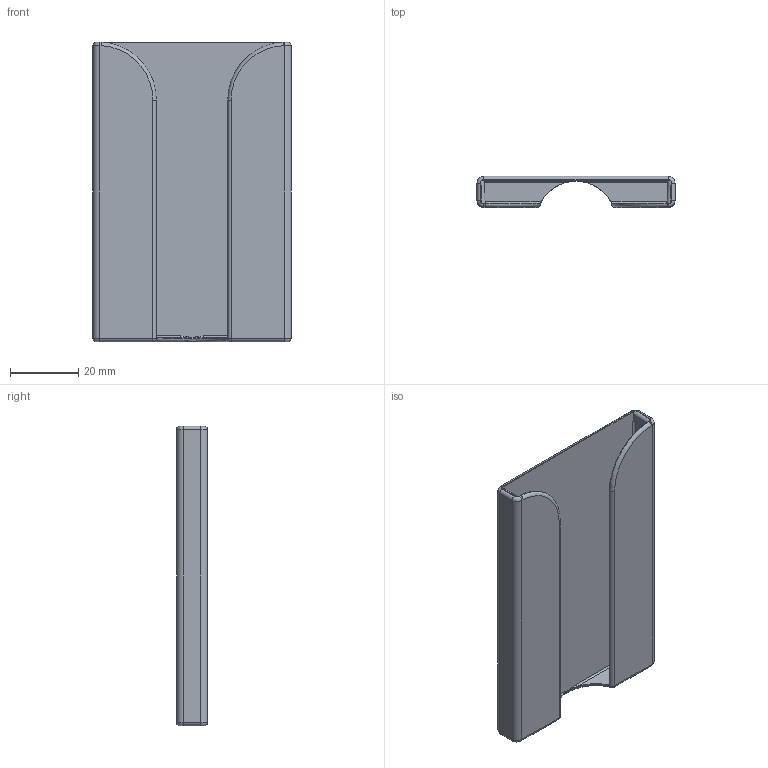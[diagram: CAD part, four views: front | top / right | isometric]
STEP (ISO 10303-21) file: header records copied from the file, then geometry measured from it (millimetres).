
FILE_DESCRIPTION(/* description */ ('','CAx-IF Rec.Pracs.---Representation and Presentation of Product Manufacturing Information (PMI)---4.0---2014-10-13'),/* implementation_level */ '2;1');
FILE_NAME(/* name */ 'The DUMB Wallet.step',/* time_stamp */ '2025-02-27T22:11:47-07:00',/* author */ (''),/* organization */ (''),/* preprocessor_version */ 'ST-DEVELOPER v20',/* originating_system */ 'Autodesk Translation Framework v13.20.0.188',/* authorisation */ '');
FILE_SCHEMA (('AP242_MANAGED_MODEL_BASED_3D_ENGINEERING_MIM_LF { 1 0 10303 442 1 1 4 }'));
Length unit declared in the file: millimetre
Products named in the file (1): The DUMB Wallet
Bounding box: 58.25 x 9.1 x 88 mm (x, y, z)
Volume: 12394.4 mm3; surface area: 19060.4 mm2
Topology: 1 solids, 1 shells, 79 faces, 186 edges, 105 vertices
Faces by surface type: cylinder 33, plane 25, bspline 12, sphere 6, torus 3
Entity records: 2407 total; most frequent: CARTESIAN_POINT 610, DIRECTION 388, ORIENTED_EDGE 364, EDGE_CURVE 182, AXIS2_PLACEMENT_3D 151, VERTEX_POINT 105, LINE 86, VECTOR 86
